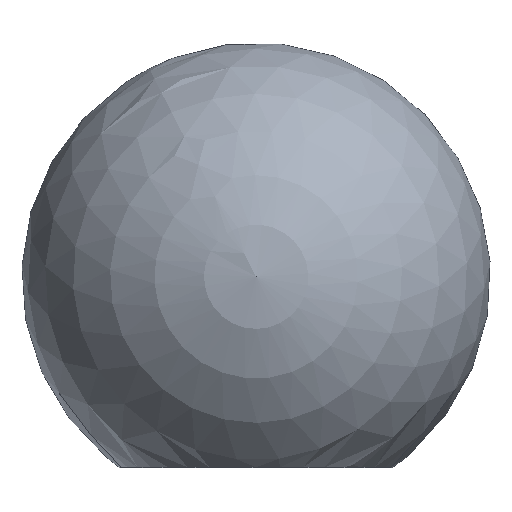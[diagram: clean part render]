
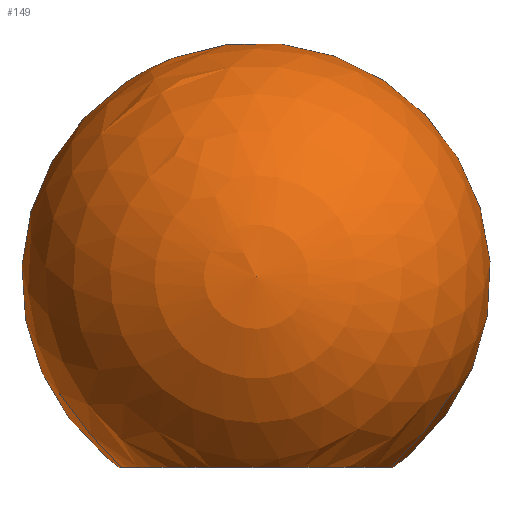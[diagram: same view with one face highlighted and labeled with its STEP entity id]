
A CAD part, top view. The second image highlights one B-rep face of the part: STEP entity #149.
In plain terms, the highlighted spherical face has radius 16 mm.
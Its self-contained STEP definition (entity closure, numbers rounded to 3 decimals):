
#4 = SPHERICAL_SURFACE ( 'NONE', #172, 16. ) ;
#15 = VERTEX_POINT ( 'NONE', #18 ) ;
#18 = CARTESIAN_POINT ( 'NONE',  ( 0., 0., -9.327 ) ) ;
#42 = CIRCLE ( 'NONE', #129, 9.327 ) ;
#43 = FACE_OUTER_BOUND ( 'NONE', #136, .T. ) ;
#47 = DIRECTION ( 'NONE',  ( 0., 0., 1. ) ) ;
#50 = EDGE_CURVE ( 'NONE', #15, #15, #42, .T. ) ;
#82 = DIRECTION ( 'NONE',  ( 0., 0., -1. ) ) ;
#97 = CARTESIAN_POINT ( 'NONE',  ( 0., 0., 0. ) ) ;
#129 = AXIS2_PLACEMENT_3D ( 'NONE', #97, #174, #82 ) ;
#136 = EDGE_LOOP ( 'NONE', ( #171 ) ) ;
#149 = ADVANCED_FACE ( 'NONE', ( #43 ), #4, .T. ) ;
#151 = DIRECTION ( 'NONE',  ( 1., 0., 0. ) ) ;
#160 = CARTESIAN_POINT ( 'NONE',  ( 0., 13., 0. ) ) ;
#171 = ORIENTED_EDGE ( 'NONE', *, *, #50, .F. ) ;
#172 = AXIS2_PLACEMENT_3D ( 'NONE', #160, #47, #151 ) ;
#174 = DIRECTION ( 'NONE',  ( 0., -1., 0. ) ) ;
